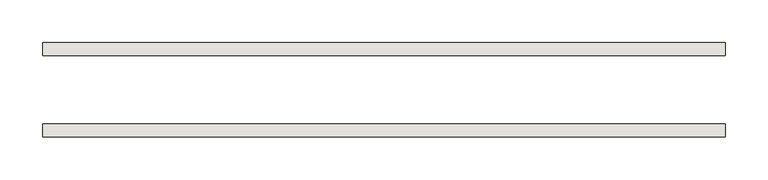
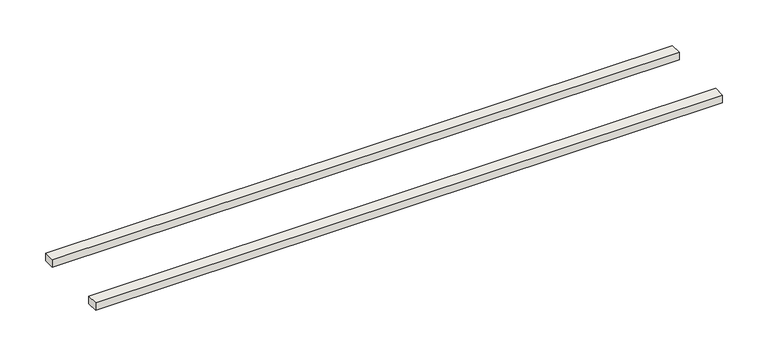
"""IFC4 building model written with IfcOpenShell, lengths in millimetres: wall geometry, Sealent : Sealent."""

from ifc_helpers import new_model, si_unit, origin, origin_with_axes, place, context, project, spatial, polyline, outline, extrude, source, transform, mapped, element, save


def wall_45c2a2a5(model_context):
    return source(origin(), model_context, "Body", "SweptSolid", [
        extrude(outline(polyline([(17896.0136184, 14998.3863455), (18691.0136184, 14998.3863455), (18691.0136184, 14983.3863455), (17896.0136184, 14983.3863455), (17896.0136184, 14998.3863455)])), origin_with_axes(), (0.0, 0.0, 1.0), 10.0132587),
        extrude(outline(polyline([(18691.0136184, 14903.3863455), (18691.0136184, 14888.3863455), (17896.0136184, 14888.3863455), (17896.0136184, 14903.3863455), (18691.0136184, 14903.3863455)])), origin_with_axes(), (0.0, 0.0, 1.0), 10.0132587),
    ])


if __name__ == "__main__":
    model = new_model("IFC4")
    model_context = context("Model", 3, world=origin())
    ifc_project = project(units=[si_unit("LENGTHUNIT", "METRE", prefix="MILLI")], contexts=[model_context])
    site = spatial("IfcSite", under=ifc_project)
    building = spatial("IfcBuilding", under=site)
    placement = place(None, origin())
    wall_shape = wall_45c2a2a5(model_context)
    element("IfcWall", 1, ObjectType="Sealent : Sealent", at=placement, inside=building, context=model_context, shape_type="MappedRepresentation", body=[
        mapped(wall_shape, transform((0.0, 0.0, 0.0), x_axis=(1.0, 0.0, 0.0), y_axis=(0.0, 1.0, 0.0), z_axis=(0.0, 0.0, 1.0))),
    ])
    save(model, "model.ifc")
